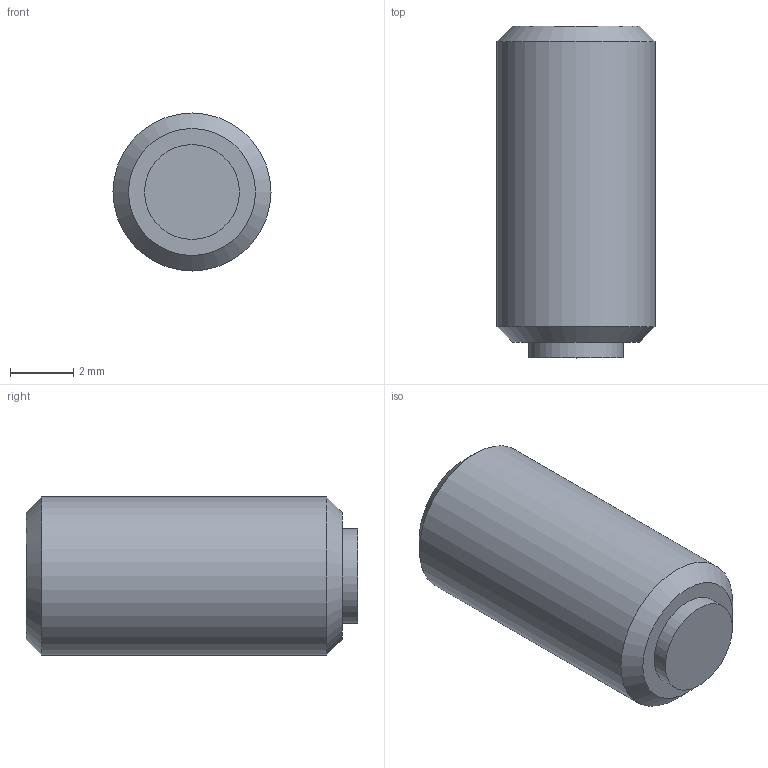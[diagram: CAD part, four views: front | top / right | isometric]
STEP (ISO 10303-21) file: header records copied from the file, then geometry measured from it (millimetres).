
FILE_DESCRIPTION( ( 'STEP AP203' ), '1' );
FILE_NAME( 'C:/Temp/Ganter_Step_05_03_2020/data/3_2/gn913_3/Grub screw GN 913.3-M5-10-MS.stp', '2020-03-13T05:35:46', ( 'License CC BY-ND 4.0' ), ( 'CADENAS' ), ' ', 'PARTsolutions', ' ' );
FILE_SCHEMA( ( 'CONFIG_CONTROL_DESIGN' ) );
Length unit declared in the file: millimetre
Products named in the file (1): _Grub screw GN 913.3-M5-10-MS
Bounding box: 5 x 10.5 x 5 mm (x, y, z)
Volume: 180.1 mm3; surface area: 217.4 mm2
Topology: 1 solids, 1 shells, 14 faces, 28 edges, 18 vertices
Faces by surface type: plane 10, cylinder 2, cone 2
Full cylindrical faces by diameter (mm): 3 x1, 5 x1
Entity records: 386 total; most frequent: DIRECTION 60, CARTESIAN_POINT 57, ORIENTED_EDGE 48, EDGE_CURVE 24, AXIS2_PLACEMENT_3D 21, EDGE_LOOP 20, VERTEX_POINT 18, LINE 18
